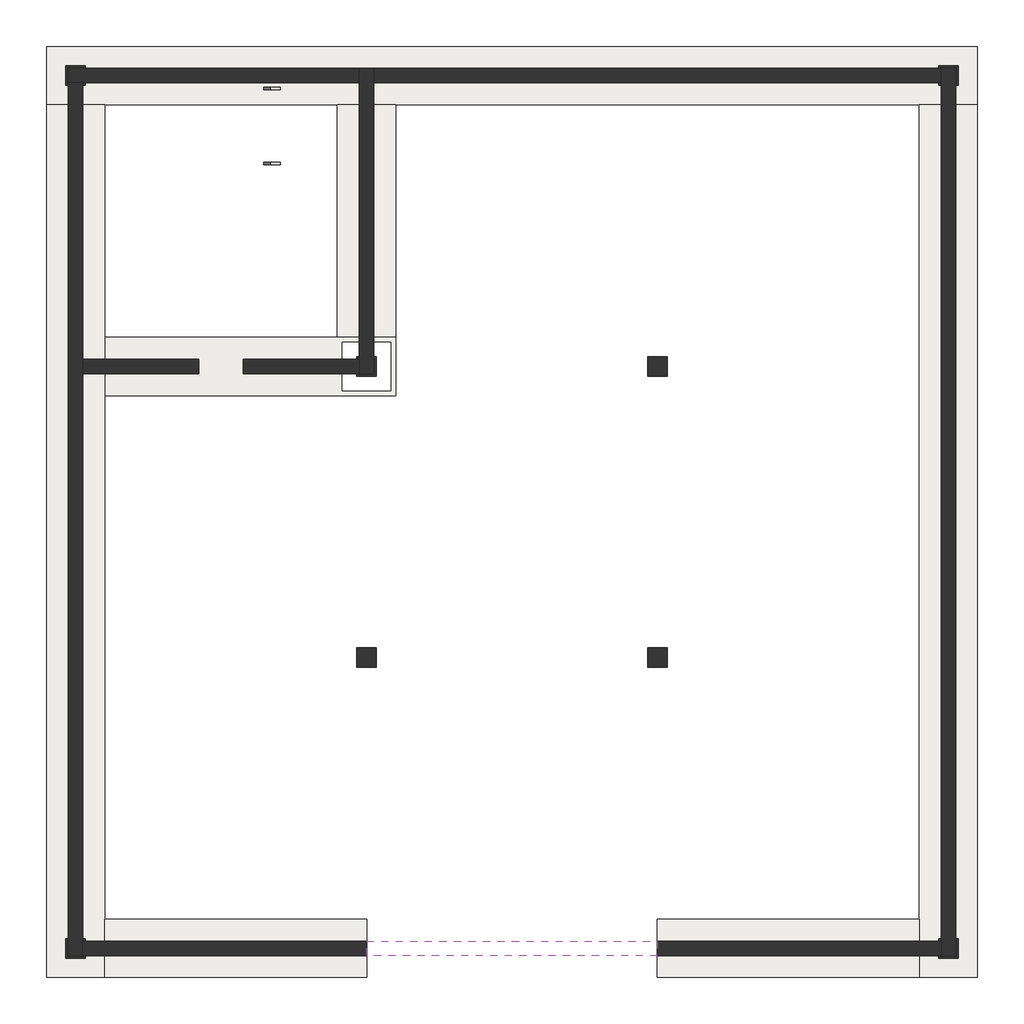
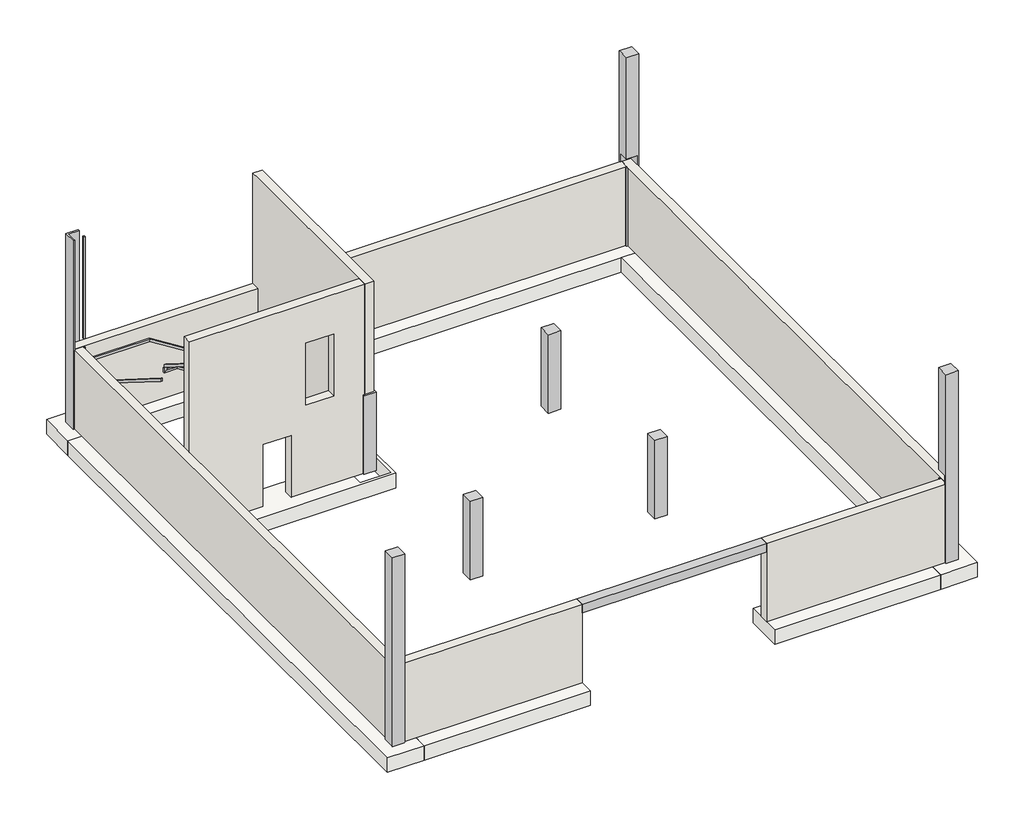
# One storey: 8 columns, 7 footings, 7 walls, 2 railings, 1 beam.
"""IFC4 building model written with IfcOpenShell, lengths in millimetres."""

from ifc_helpers import new_model, si_unit, frame, origin, place, context, project, spatial, polyline, outline, extrude, faceted_brep, transform, mapped, element, save
from components import railing_900_mm_58856e27, railing_900_mm_52bd7b41

model = new_model("IFC4")

# Units and contexts
model_context = context("Model", 3, world=origin())
ifc_project = project(units=[si_unit("LENGTHUNIT", "METRE", prefix="MILLI")], contexts=[model_context])

# Site, building, storey
site = spatial("IfcSite", under=ifc_project)
building = spatial("IfcBuilding", under=site)
storey = spatial("IfcBuildingStorey", under=building, Name="Fundamente", Elevation=-3000.0)

# Beam
placement = place(None, origin())
element("IfcBeam", 1, ObjectType="STB Unterzug : STB 30 x 60", at=placement, inside=storey, context=model_context, shape_type="SweptSolid", body=[
    extrude(outline(polyline([(-2741.8279477, -8296.8681354), (-2741.8279477, -7996.8681354), (3258.1720523, -7996.8681354), (3258.1720523, -8296.8681354), (-2741.8279477, -8296.8681354)])), frame((0.0, 0.0, -600.0), z_axis=(0.0, 0.0, 1.0), x_axis=(1.0, 0.0, 0.0)), (0.0, 0.0, 1.0), 300.0),
])

# Columns
element("IfcColumn", 2, ObjectType="STB Stütze - rechteckig : STB 40 x 40", at=placement, inside=storey, context=model_context, shape_type="SweptSolid", body=[
    extrude(outline(polyline([(-2941.8279477, -2346.8681354), (-2941.8279477, -1946.8681354), (-2541.8279477, -1946.8681354), (-2541.8279477, -2346.8681354), (-2941.8279477, -2346.8681354)])), frame((0.0, 0.0, -3000.0), z_axis=(0.0, 0.0, 1.0), x_axis=(1.0, 0.0, 0.0)), (0.0, 0.0, 1.0), 2700.0),
])
element("IfcColumn", 3, ObjectType="STB Stütze - rechteckig : STB 40 x 40", at=placement, inside=storey, context=model_context, shape_type="Brep", body=[
    faceted_brep([(-2541.8279477, 4053.1318646, -3000.0), (-2541.8279477, 3653.1318646, -3000.0), (-2941.8279477, 3653.1318646, -3000.0), (-2941.8279477, 3703.1318646, -3000.0), (-2891.8279477, 3703.1318646, -3000.0), (-2591.8279477, 3703.1318646, -3000.0), (-2591.8279477, 4053.1318646, -3000.0), (-2541.8279477, 4053.1318646, -300.0), (-2591.8279477, 4053.1318646, -300.0), (-2541.8279477, 3653.1318646, -300.0), (-2941.8279477, 3653.1318646, -300.0), (-2591.8279477, 3703.1318646, -300.0), (-2941.8279477, 3703.1318646, -300.0)], [[[0, 1, 2, 3, 4, 5, 6]], [[7, 0, 6, 8]], [[1, 0, 7, 9]], [[2, 1, 9, 10]], [[9, 7, 8, 11, 12, 10]], [[3, 12, 11, 5, 4]], [[2, 10, 12, 3]], [[5, 11, 8, 6]]]),
    faceted_brep([(-2941.8279477, 4053.1318646, -300.0), (-2941.8279477, 4053.1318646, -3000.0), (-2941.8279477, 4003.1318646, -3000.0), (-2941.8279477, 4003.1318646, -300.0), (-2891.8279477, 4003.1318646, -3000.0), (-2891.8279477, 4003.1318646, -300.0), (-2891.8279477, 4053.1318646, -3000.0), (-2891.8279477, 4053.1318646, -300.0)], [[[0, 1, 2, 3]], [[2, 4, 5, 3]], [[4, 6, 7, 5]], [[2, 1, 6, 4]], [[1, 0, 7, 6]], [[0, 3, 5, 7]]]),
])
element("IfcColumn", 4, ObjectType="STB Stütze - rechteckig : STB 40 x 40", at=placement, inside=storey, context=model_context, shape_type="SweptSolid", body=[
    extrude(outline(polyline([(3058.1720523, -2346.8681354), (3058.1720523, -1946.8681354), (3458.1720523, -1946.8681354), (3458.1720523, -2346.8681354), (3058.1720523, -2346.8681354)])), frame((0.0, 0.0, -3000.0), z_axis=(0.0, 0.0, 1.0), x_axis=(1.0, 0.0, 0.0)), (0.0, 0.0, 1.0), 2700.0),
])
element("IfcColumn", 5, ObjectType="STB Stütze - rechteckig : STB 40 x 40", at=placement, inside=storey, context=model_context, shape_type="SweptSolid", body=[
    extrude(outline(polyline([(3058.1720523, 3653.1318646), (3058.1720523, 4053.1318646), (3458.1720523, 4053.1318646), (3458.1720523, 3653.1318646), (3058.1720523, 3653.1318646)])), frame((0.0, 0.0, -3000.0), z_axis=(0.0, 0.0, 1.0), x_axis=(1.0, 0.0, 0.0)), (0.0, 0.0, 1.0), 2700.0),
])
element("IfcColumn", 6, ObjectType="STB Stütze - rechteckig : STB 40 x 40", at=placement, inside=storey, context=model_context, shape_type="Brep", body=[
    faceted_brep([(-8541.8279477, 9703.1318646, -3000.0), (-8541.8279477, 9653.1318646, -3000.0), (-8591.8279477, 9653.1318646, -3000.0), (-8591.8279477, 9703.1318646, -3000.0), (-8541.8279477, 9653.1318646, -300.0), (-8591.8279477, 9653.1318646, -300.0), (-8541.8279477, 9703.1318646, -300.0), (-8591.8279477, 9703.1318646, -300.0)], [[[0, 1, 2, 3]], [[1, 4, 5, 2]], [[4, 1, 0, 6]], [[4, 6, 7, 5]], [[6, 0, 3, 7]], [[3, 2, 5, 7]]]),
    faceted_brep([(-8941.8279477, 10053.1318646, -3000.0), (-8941.8279477, 9653.1318646, -3000.0), (-8941.8279477, 9653.1318646, 3500.0), (-8941.8279477, 10053.1318646, 3500.0), (-8541.8279477, 10053.1318646, -3000.0), (-8541.8279477, 10053.1318646, 3500.0), (-8891.8279477, 9653.1318646, 3500.0), (-8891.8279477, 9703.1318646, 3500.0), (-8891.8279477, 10003.1318646, 3500.0), (-8541.8279477, 10003.1318646, 3500.0), (-8541.8279477, 10003.1318646, -3000.0), (-8891.8279477, 10003.1318646, -3000.0), (-8891.8279477, 9703.1318646, -3000.0), (-8891.8279477, 9653.1318646, -3000.0), (-8891.8279477, 10003.1318646, -300.0), (-8891.8279477, 10003.1318646, 0.0)], [[[0, 1, 2, 3]], [[4, 0, 3, 5]], [[3, 2, 6, 7, 8, 9, 5]], [[1, 0, 4, 10, 11, 12, 13]], [[4, 5, 9, 10]], [[2, 1, 13, 6]], [[13, 12, 11, 14, 15, 8, 7, 6]], [[11, 10, 9, 8, 15, 14]]]),
    faceted_brep([(-8541.8279477, 9653.1318646, 3500.0), (-8541.8279477, 9653.1318646, 0.0), (-8541.8279477, 9703.1318646, 0.0), (-8541.8279477, 9703.1318646, 3500.0), (-8591.8279477, 9653.1318646, 3500.0), (-8591.8279477, 9653.1318646, 0.0), (-8591.8279477, 9703.1318646, 3500.0), (-8591.8279477, 9703.1318646, 0.0)], [[[0, 1, 2, 3]], [[1, 0, 4, 5]], [[0, 3, 6, 4]], [[2, 1, 5, 7]], [[3, 2, 7, 6]], [[4, 6, 7, 5]]]),
])
element("IfcColumn", 7, ObjectType="STB Stütze - rechteckig : STB 40 x 40", at=placement, inside=storey, context=model_context, shape_type="Brep", body=[
    faceted_brep([(9058.1720523, 9653.1318646, -3000.0), (9058.1720523, 9703.1318646, -3000.0), (9108.1720523, 9703.1318646, -3000.0), (9108.1720523, 9653.1318646, -3000.0), (9058.1720523, 9653.1318646, -300.0), (9058.1720523, 9703.1318646, -300.0), (9108.1720523, 9653.1318646, -300.0), (9108.1720523, 9703.1318646, -300.0)], [[[0, 1, 2, 3]], [[0, 4, 5, 1]], [[4, 0, 3, 6]], [[5, 4, 6, 7]], [[2, 1, 5, 7]], [[3, 2, 7, 6]]]),
    faceted_brep([(9058.1720523, 9653.1318646, 3500.0), (9058.1720523, 9703.1318646, 3500.0), (9058.1720523, 10003.1318646, 3500.0), (9058.1720523, 10053.1318646, 3500.0), (9058.1720523, 10053.1318646, -3000.0), (9058.1720523, 10003.1318646, -3000.0), (9058.1720523, 10003.1318646, 0.0), (9058.1720523, 9653.1318646, 0.0), (9458.1720523, 10053.1318646, -3000.0), (9458.1720523, 10053.1318646, 3500.0), (9458.1720523, 9653.1318646, -3000.0), (9458.1720523, 9653.1318646, 3500.0), (9408.1720523, 9653.1318646, 3500.0), (9108.1720523, 9653.1318646, 3500.0), (9408.1720523, 9653.1318646, 0.0), (9408.1720523, 9653.1318646, -3000.0), (9408.1720523, 10003.1318646, -3000.0), (9108.1720523, 10003.1318646, -3000.0), (9408.1720523, 10003.1318646, 0.0), (9408.1720523, 10003.1318646, -300.0)], [[[0, 1, 2, 3, 4, 5, 6, 7]], [[8, 4, 3, 9]], [[10, 8, 9, 11]], [[10, 11, 12, 13, 0, 7, 14, 15]], [[3, 2, 1, 0, 13, 12, 11, 9]], [[4, 8, 10, 15, 16, 17, 5]], [[18, 14, 7, 6]], [[16, 15, 14, 18, 19]], [[16, 19, 18, 6, 5, 17]]]),
])
element("IfcColumn", 8, ObjectType="STB Stütze - rechteckig : STB 40 x 40", at=placement, inside=storey, context=model_context, shape_type="Brep", body=[
    faceted_brep([(-8591.8279477, -7946.8681354, -3000.0), (-8541.8279477, -7946.8681354, -3000.0), (-8541.8279477, -7996.8681354, -3000.0), (-8591.8279477, -7996.8681354, -3000.0), (-8541.8279477, -7946.8681354, -300.0), (-8591.8279477, -7946.8681354, -300.0), (-8541.8279477, -7996.8681354, -300.0), (-8591.8279477, -7996.8681354, -300.0)], [[[0, 1, 2, 3]], [[4, 1, 0, 5]], [[1, 4, 6, 2]], [[4, 5, 7, 6]], [[5, 0, 3, 7]], [[3, 2, 6, 7]]]),
    faceted_brep([(-8941.8279477, -7946.8681354, -3000.0), (-8941.8279477, -8346.8681354, -3000.0), (-8941.8279477, -8346.8681354, 3500.0), (-8941.8279477, -7946.8681354, 3500.0), (-8891.8279477, -7946.8681354, 3500.0), (-8591.8279477, -7946.8681354, 3500.0), (-8541.8279477, -7946.8681354, 3500.0), (-8541.8279477, -7946.8681354, 0.0), (-8891.8279477, -7946.8681354, 0.0), (-8891.8279477, -7946.8681354, -3000.0), (-8541.8279477, -7996.8681354, 3500.0), (-8541.8279477, -8296.8681354, 3500.0), (-8541.8279477, -8346.8681354, 3500.0), (-8541.8279477, -8346.8681354, -3000.0), (-8541.8279477, -8296.8681354, -3000.0), (-8541.8279477, -8296.8681354, 0.0), (-8891.8279477, -8296.8681354, -3000.0), (-8591.8279477, -8296.8681354, -3000.0), (-8891.8279477, -8296.8681354, 0.0), (-8891.8279477, -8296.8681354, -300.0)], [[[0, 1, 2, 3]], [[0, 3, 4, 5, 6, 7, 8, 9]], [[6, 10, 11, 12, 13, 14, 15, 7]], [[1, 13, 12, 2]], [[3, 2, 12, 11, 10, 6, 5, 4]], [[1, 0, 9, 16, 17, 14, 13]], [[15, 18, 8, 7]], [[18, 15, 14, 17, 16, 19]], [[8, 18, 19, 16, 9]]]),
])
element("IfcColumn", 9, ObjectType="STB Stütze - rechteckig : STB 40 x 40", at=placement, inside=storey, context=model_context, shape_type="Brep", body=[
    faceted_brep([(9458.1720523, -7946.8681354, -3000.0), (9458.1720523, -8346.8681354, -3000.0), (9058.1720523, -8346.8681354, -3000.0), (9058.1720523, -8296.8681354, -3000.0), (9108.1720523, -8296.8681354, -3000.0), (9408.1720523, -8296.8681354, -3000.0), (9408.1720523, -7946.8681354, -3000.0), (9058.1720523, -8346.8681354, 3500.0), (9058.1720523, -8296.8681354, 3500.0), (9058.1720523, -7996.8681354, 3500.0), (9058.1720523, -7946.8681354, 3500.0), (9058.1720523, -7946.8681354, 0.0), (9058.1720523, -8296.8681354, 0.0), (9108.1720523, -7946.8681354, 3500.0), (9408.1720523, -7946.8681354, 3500.0), (9458.1720523, -7946.8681354, 3500.0), (9408.1720523, -7946.8681354, 0.0), (9458.1720523, -8346.8681354, 3500.0), (9408.1720523, -8296.8681354, 0.0), (9408.1720523, -8296.8681354, -300.0)], [[[0, 1, 2, 3, 4, 5, 6]], [[7, 8, 9, 10, 11, 12, 3, 2]], [[10, 13, 14, 15, 0, 6, 16, 11]], [[1, 0, 15, 17]], [[2, 1, 17, 7]], [[10, 9, 8, 7, 17, 15, 14, 13]], [[16, 18, 12, 11]], [[18, 16, 6, 5, 19]], [[12, 18, 19, 5, 4, 3]]]),
    faceted_brep([(9058.1720523, -7946.8681354, -3000.0), (9058.1720523, -7946.8681354, -300.0), (9108.1720523, -7946.8681354, -300.0), (9108.1720523, -7946.8681354, -3000.0), (9108.1720523, -7996.8681354, -3000.0), (9058.1720523, -7996.8681354, -3000.0), (9058.1720523, -7996.8681354, -300.0), (9108.1720523, -7996.8681354, -300.0)], [[[0, 1, 2, 3]], [[0, 3, 4, 5]], [[1, 0, 5, 6]], [[2, 1, 6, 7]], [[3, 2, 7, 4]], [[5, 4, 7, 6]]]),
])

# Footings
element("IfcFooting", 10, ObjectType="Tragendes Fundament - 1200 x 500", at=placement, inside=storey, context=model_context, shape_type="Brep", body=[
    faceted_brep([(-9341.8279477, 9253.1318646, -3000.0), (-8141.8279477, 9253.1318646, -3000.0), (-3341.8279477, 9253.1318646, -3000.0), (-2141.8279477, 9253.1318646, -3000.0), (8658.1720523, 9253.1318646, -3000.0), (9858.1720523, 9253.1318646, -3000.0), (9858.1720523, 10453.1318646, -3000.0), (-9341.8279477, 10453.1318646, -3000.0), (-9341.8279477, 10453.1318646, -3500.0), (9858.1720523, 10453.1318646, -3500.0), (-9341.8279477, 9253.1318646, -3500.0), (9858.1720523, 9253.1318646, -3500.0), (8658.1720523, 9253.1318646, -3500.0), (-2141.8279477, 9253.1318646, -3500.0), (-3341.8279477, 9253.1318646, -3500.0), (-8141.8279477, 9253.1318646, -3500.0)], [[[0, 1, 2, 3, 4, 5, 6, 7]], [[8, 7, 6, 9]], [[10, 8, 9, 11, 12, 13, 14, 15]], [[0, 10, 15, 14, 13, 12, 11, 5, 4, 3, 2, 1]], [[0, 7, 8, 10]], [[6, 5, 11, 9]]]),
])
element("IfcFooting", 11, ObjectType="Tragendes Fundament - 1200 x 500", at=placement, inside=storey, context=model_context, shape_type="Brep", body=[
    faceted_brep([(-9341.8279477, -8746.8681354, -3000.0), (-8141.8279477, -8746.8681354, -3000.0), (-8141.8279477, -7546.8681354, -3000.0), (-8141.8279477, 3253.1318646, -3000.0), (-8141.8279477, 4453.1318646, -3000.0), (-8141.8279477, 9253.1318646, -3000.0), (-9341.8279477, 9253.1318646, -3000.0), (-9341.8279477, -8746.8681354, -3500.0), (-9341.8279477, 9253.1318646, -3500.0), (-8141.8279477, -8746.8681354, -3500.0), (-8141.8279477, 9253.1318646, -3500.0), (-8141.8279477, 4453.1318646, -3500.0), (-8141.8279477, 3253.1318646, -3500.0), (-8141.8279477, -7546.8681354, -3500.0)], [[[0, 1, 2, 3, 4, 5, 6]], [[7, 0, 6, 8]], [[9, 7, 8, 10, 11, 12, 13]], [[1, 9, 13, 12, 11, 10, 5, 4, 3, 2]], [[1, 0, 7, 9]], [[6, 5, 10, 8]]]),
])
element("IfcFooting", 12, ObjectType="Tragendes Fundament - 1200 x 500", at=placement, inside=storey, context=model_context, shape_type="Brep", body=[
    faceted_brep([(8658.1720523, -8746.8681354, -3000.0), (9858.1720523, -8746.8681354, -3000.0), (9858.1720523, 9253.1318646, -3000.0), (8658.1720523, 9253.1318646, -3000.0), (8658.1720523, -7546.8681354, -3000.0), (9858.1720523, -8746.8681354, -3500.0), (9858.1720523, 9253.1318646, -3500.0), (8658.1720523, -8746.8681354, -3500.0), (8658.1720523, -7546.8681354, -3500.0), (8658.1720523, 9253.1318646, -3500.0)], [[[0, 1, 2, 3, 4]], [[1, 5, 6, 2]], [[5, 7, 8, 9, 6]], [[7, 0, 4, 3, 9, 8]], [[1, 0, 7, 5]], [[3, 2, 6, 9]]]),
])
element("IfcFooting", 13, ObjectType="Tragendes Fundament - 1200 x 500", at=placement, inside=storey, context=model_context, shape_type="Brep", body=[
    faceted_brep([(-2741.8279477, -8746.8681354, -3000.0), (-2741.8279477, -8746.8681354, -3500.0), (-2741.8279477, -7546.8681354, -3500.0), (-2741.8279477, -7546.8681354, -3000.0), (-2741.8279477, -7996.8681354, -3000.0), (-2741.8279477, -8296.8681354, -3000.0), (-8141.8279477, -7546.8681354, -3000.0), (-8141.8279477, -8746.8681354, -3000.0), (-8141.8279477, -8746.8681354, -3500.0), (-8141.8279477, -7546.8681354, -3500.0)], [[[0, 1, 2, 3, 4, 5]], [[0, 5, 4, 3, 6, 7]], [[1, 0, 7, 8]], [[2, 1, 8, 9]], [[3, 2, 9, 6]], [[7, 6, 9, 8]]]),
])
element("IfcFooting", 14, ObjectType="Tragendes Fundament - 1200 x 500", at=placement, inside=storey, context=model_context, shape_type="Brep", body=[
    faceted_brep([(3258.1720523, -7546.8681354, -3000.0), (3258.1720523, -7546.8681354, -3500.0), (3258.1720523, -8746.8681354, -3500.0), (3258.1720523, -8746.8681354, -3000.0), (3258.1720523, -8296.8681354, -3000.0), (3258.1720523, -7996.8681354, -3000.0), (8658.1720523, -8746.8681354, -3000.0), (8658.1720523, -7546.8681354, -3000.0), (8658.1720523, -7546.8681354, -3500.0), (8658.1720523, -8746.8681354, -3500.0)], [[[0, 1, 2, 3, 4, 5]], [[0, 5, 4, 3, 6, 7]], [[1, 0, 7, 8]], [[2, 1, 8, 9]], [[3, 2, 9, 6]], [[7, 6, 9, 8]]]),
])
element("IfcFooting", 15, ObjectType="Tragendes Fundament - 1200 x 500", at=placement, inside=storey, context=model_context, shape_type="Brep", body=[
    faceted_brep([(-2141.8279477, 4453.1318646, -3000.0), (-3341.8279477, 4453.1318646, -3000.0), (-8141.8279477, 4453.1318646, -3000.0), (-8141.8279477, 3253.1318646, -3000.0), (-2141.8279477, 3253.1318646, -3000.0), (-3241.8279477, 3353.1318646, -3000.0), (-3241.8279477, 4353.1318646, -3000.0), (-2241.8279477, 4353.1318646, -3000.0), (-2241.8279477, 3353.1318646, -3000.0), (-8141.8279477, 3253.1318646, -3500.0), (-2141.8279477, 3253.1318646, -3500.0), (-8141.8279477, 4453.1318646, -3500.0), (-3341.8279477, 4453.1318646, -3500.0), (-2141.8279477, 4453.1318646, -3500.0), (-3241.8279477, 4353.1318646, -3500.0), (-3241.8279477, 3353.1318646, -3500.0), (-2241.8279477, 3353.1318646, -3500.0), (-2241.8279477, 4353.1318646, -3500.0)], [[[0, 1, 2, 3, 4], [5, 6, 7, 8]], [[4, 3, 9, 10]], [[10, 9, 11, 12, 13], [14, 15, 16, 17]], [[2, 1, 0, 13, 12, 11]], [[3, 2, 11, 9]], [[14, 6, 5, 15]], [[0, 4, 10, 13]], [[15, 5, 8, 16]], [[16, 8, 7, 17]], [[6, 14, 17, 7]]]),
])
element("IfcFooting", 16, ObjectType="Tragendes Fundament - 1200 x 500", at=placement, inside=storey, context=model_context, shape_type="SweptSolid", body=[
    extrude(outline(polyline([(-3341.8279477, 9253.1318646), (-2141.8279477, 9253.1318646), (-2141.8279477, 4453.1318646), (-3341.8279477, 4453.1318646), (-3341.8279477, 9253.1318646)])), frame((0.0, 0.0, -3500.0), z_axis=(0.0, 0.0, 1.0), x_axis=(1.0, 0.0, 0.0)), (0.0, 0.0, 1.0), 500.0),
])

# Railings
railing_900_mm_shape = railing_900_mm_58856e27(model_context)
element("IfcRailing", 17, ObjectType="900 mm", at=placement, inside=storey, context=model_context, shape_type="MappedRepresentation", body=[
    mapped(railing_900_mm_shape, transform((0.0, 0.0, 0.0), x_axis=(1.0, 0.0, 0.0), y_axis=(0.0, 1.0, 0.0), z_axis=(0.0, 0.0, 1.0))),
])
railing_900_mm_2_shape = railing_900_mm_52bd7b41(model_context)
element("IfcRailing", 18, ObjectType="900 mm", at=placement, inside=storey, context=model_context, shape_type="MappedRepresentation", body=[
    mapped(railing_900_mm_2_shape, transform((0.0, 0.0, 0.0), x_axis=(1.0, 0.0, 0.0), y_axis=(0.0, 1.0, 0.0), z_axis=(0.0, 0.0, 1.0))),
])

# Walls
element("IfcWall", 19, ObjectType="STB 30.0", at=placement, inside=storey, context=model_context, shape_type="Brep", body=[
    faceted_brep([(-8891.8279477, 9703.1318646, -3000.0), (-8591.8279477, 9703.1318646, -3000.0), (-8541.8279477, 9703.1318646, -3000.0), (9058.1720523, 9703.1318646, -3000.0), (9108.1720523, 9703.1318646, -3000.0), (9108.1720523, 9703.1318646, -300.0), (9058.1720523, 9703.1318646, -300.0), (-8541.8279477, 9703.1318646, -300.0), (-8591.8279477, 9703.1318646, -300.0), (-8891.8279477, 9703.1318646, -300.0), (-8891.8279477, 10003.1318646, -3000.0), (-8891.8279477, 10003.1318646, -300.0), (9108.1720523, 10003.1318646, -300.0), (9108.1720523, 10003.1318646, -3000.0), (9058.1720523, 10003.1318646, -3000.0), (-8541.8279477, 10003.1318646, -3000.0)], [[[0, 1, 2, 3, 4, 5, 6, 7, 8, 9]], [[10, 11, 12, 13, 14, 15]], [[4, 3, 2, 1, 0, 10, 15, 14, 13]], [[5, 4, 13, 12]], [[0, 9, 11, 10]], [[9, 8, 7, 6, 5, 12, 11]]]),
])
element("IfcWall", 20, ObjectType="STB 30.0", at=placement, inside=storey, context=model_context, shape_type="Brep", body=[
    faceted_brep([(-8591.8279477, -8296.8681354, -3000.0), (-8591.8279477, -7996.8681354, -3000.0), (-8591.8279477, -7946.8681354, -3000.0), (-8591.8279477, 9653.1318646, -3000.0), (-8591.8279477, 9703.1318646, -3000.0), (-8591.8279477, 9703.1318646, -300.0), (-8591.8279477, 9653.1318646, -300.0), (-8591.8279477, -7946.8681354, -300.0), (-8591.8279477, -7996.8681354, -300.0), (-8591.8279477, -8296.8681354, -300.0), (-8891.8279477, -8296.8681354, -3000.0), (-8891.8279477, -8296.8681354, -300.0), (-8891.8279477, 9703.1318646, -300.0), (-8891.8279477, 9703.1318646, -3000.0), (-8891.8279477, 9653.1318646, -3000.0), (-8891.8279477, -7946.8681354, -3000.0)], [[[0, 1, 2, 3, 4, 5, 6, 7, 8, 9]], [[10, 11, 12, 13, 14, 15]], [[4, 3, 2, 1, 0, 10, 15, 14, 13]], [[5, 4, 13, 12]], [[0, 9, 11, 10]], [[9, 8, 7, 6, 5, 12, 11]]]),
])
element("IfcWall", 21, ObjectType="STB 30.0", at=placement, inside=storey, context=model_context, shape_type="Brep", body=[
    faceted_brep([(9108.1720523, 10003.1318646, -3000.0), (9108.1720523, 9703.1318646, -3000.0), (9108.1720523, 9653.1318646, -3000.0), (9108.1720523, -7946.8681354, -3000.0), (9108.1720523, -7996.8681354, -3000.0), (9108.1720523, -8296.8681354, -3000.0), (9108.1720523, -8296.8681354, -300.0), (9108.1720523, -7996.8681354, -300.0), (9108.1720523, -7946.8681354, -300.0), (9108.1720523, 9653.1318646, -300.0), (9108.1720523, 9703.1318646, -300.0), (9108.1720523, 10003.1318646, -300.0), (9408.1720523, 10003.1318646, -3000.0), (9408.1720523, 10003.1318646, -300.0), (9408.1720523, -8296.8681354, -300.0), (9408.1720523, -8296.8681354, -3000.0), (9408.1720523, -7946.8681354, -3000.0), (9408.1720523, 9653.1318646, -3000.0)], [[[0, 1, 2, 3, 4, 5, 6, 7, 8, 9, 10, 11]], [[12, 13, 14, 15, 16, 17]], [[5, 4, 3, 2, 1, 0, 12, 17, 16, 15]], [[0, 11, 13, 12]], [[6, 5, 15, 14]], [[11, 10, 9, 8, 7, 6, 14, 13]]]),
])
element("IfcWall", 22, ObjectType="STB 30.0", at=placement, inside=storey, context=model_context, shape_type="Brep", body=[
    faceted_brep([(-2741.8279477, -7996.8681354, -3000.0), (-8541.8279477, -7996.8681354, -3000.0), (-8591.8279477, -7996.8681354, -3000.0), (-8591.8279477, -7996.8681354, -300.0), (-8541.8279477, -7996.8681354, -300.0), (-2741.8279477, -7996.8681354, -300.0), (-2741.8279477, -7996.8681354, -600.0), (-2741.8279477, -8296.8681354, -3000.0), (-2741.8279477, -8296.8681354, -600.0), (-2741.8279477, -8296.8681354, -300.0), (-8591.8279477, -8296.8681354, -300.0), (-8591.8279477, -8296.8681354, -3000.0), (-8541.8279477, -8296.8681354, -3000.0)], [[[0, 1, 2, 3, 4, 5, 6]], [[7, 8, 9, 10, 11, 12]], [[2, 1, 0, 7, 12, 11]], [[0, 6, 5, 9, 8, 7]], [[3, 2, 11, 10]], [[5, 4, 3, 10, 9]]]),
])
element("IfcWall", 23, ObjectType="STB 30.0", at=placement, inside=storey, context=model_context, shape_type="Brep", body=[
    faceted_brep([(3258.1720523, -8296.8681354, -3000.0), (9058.1720523, -8296.8681354, -3000.0), (9108.1720523, -8296.8681354, -3000.0), (9108.1720523, -8296.8681354, -300.0), (3258.1720523, -8296.8681354, -300.0), (3258.1720523, -8296.8681354, -600.0), (3258.1720523, -7996.8681354, -3000.0), (3258.1720523, -7996.8681354, -600.0), (3258.1720523, -7996.8681354, -300.0), (9058.1720523, -7996.8681354, -300.0), (9108.1720523, -7996.8681354, -300.0), (9108.1720523, -7996.8681354, -3000.0), (9058.1720523, -7996.8681354, -3000.0)], [[[0, 1, 2, 3, 4, 5]], [[6, 7, 8, 9, 10, 11, 12]], [[2, 1, 0, 6, 12, 11]], [[0, 5, 4, 8, 7, 6]], [[3, 2, 11, 10]], [[4, 3, 10, 9, 8]]]),
])
element("IfcWall", 24, ObjectType="STB 30.0", at=placement, inside=storey, context=model_context, shape_type="Brep", body=[
    faceted_brep([(-2891.8279477, 4003.1318646, -3000.0), (-2941.8279477, 4003.1318646, -3000.0), (-5284.3279477, 4003.1318646, -3000.0), (-5284.3279477, 4003.1318646, -866.0), (-6199.3279477, 4003.1318646, -866.0), (-6199.3279477, 4003.1318646, -3000.0), (-8591.8279477, 4003.1318646, -3000.0), (-8591.8279477, 4003.1318646, 3500.0), (-2891.8279477, 4003.1318646, 3500.0), (-2891.8279477, 4003.1318646, -300.0), (-3891.8279477, 4003.1318646, 2134.0), (-4806.8279477, 4003.1318646, 2134.0), (-4806.8279477, 4003.1318646, 0.0), (-3891.8279477, 4003.1318646, 0.0), (-5284.3279477, 3703.1318646, -866.0), (-5284.3279477, 3703.1318646, -3000.0), (-2941.8279477, 3703.1318646, -3000.0), (-2891.8279477, 3703.1318646, -3000.0), (-2891.8279477, 3703.1318646, 3500.0), (-8591.8279477, 3703.1318646, 3500.0), (-8591.8279477, 3703.1318646, 0.0), (-8591.8279477, 3703.1318646, -3000.0), (-6199.3279477, 3703.1318646, -3000.0), (-6199.3279477, 3703.1318646, -866.0), (-3891.8279477, 3703.1318646, 2134.0), (-3891.8279477, 3703.1318646, 0.0), (-4806.8279477, 3703.1318646, 0.0), (-4806.8279477, 3703.1318646, 2134.0)], [[[0, 1, 2, 3, 4, 5, 6, 7, 8, 9], [10, 11, 12, 13]], [[14, 15, 16, 17, 18, 19, 20, 21, 22, 23], [24, 25, 26, 27]], [[22, 21, 6, 5]], [[17, 16, 15, 2, 1, 0]], [[8, 7, 19, 18]], [[7, 6, 21, 20, 19]], [[0, 9, 8, 18, 17]], [[25, 24, 10, 13]], [[26, 25, 13, 12]], [[27, 26, 12, 11]], [[24, 27, 11, 10]], [[5, 4, 23, 22]], [[3, 2, 15, 14]], [[4, 3, 14, 23]]]),
])
element("IfcWall", 25, ObjectType="STB 30.0", at=placement, inside=storey, context=model_context, shape_type="Brep", body=[
    faceted_brep([(-2891.8279477, 10003.1318646, -3000.0), (-2891.8279477, 4053.1318646, -3000.0), (-2891.8279477, 4003.1318646, -3000.0), (-2891.8279477, 3703.1318646, -3000.0), (-2891.8279477, 3703.1318646, 2900.0), (-2891.8279477, 3703.1318646, 3500.0), (-2891.8279477, 4003.1318646, 3500.0), (-2891.8279477, 9703.1318646, 3500.0), (-2891.8279477, 10003.1318646, 3500.0), (-2891.8279477, 10003.1318646, 0.0), (-2591.8279477, 10003.1318646, -3000.0), (-2591.8279477, 10003.1318646, 2900.0), (-2591.8279477, 10003.1318646, 3500.0), (-2591.8279477, 9703.1318646, 3500.0), (-2591.8279477, 4003.1318646, 3500.0), (-2591.8279477, 3703.1318646, 3500.0), (-2591.8279477, 3703.1318646, 2900.0), (-2591.8279477, 3703.1318646, -300.0), (-2591.8279477, 3703.1318646, -3000.0), (-2591.8279477, 4053.1318646, -3000.0)], [[[0, 1, 2, 3, 4, 5, 6, 7, 8, 9]], [[10, 11, 12, 13, 14, 15, 16, 17, 18, 19]], [[3, 2, 1, 0, 10, 19, 18]], [[8, 7, 6, 5, 15, 14, 13, 12]], [[0, 9, 8, 12, 11, 10]], [[5, 4, 3, 18, 17, 16, 15]]]),
])

save(model, "model.ifc")
